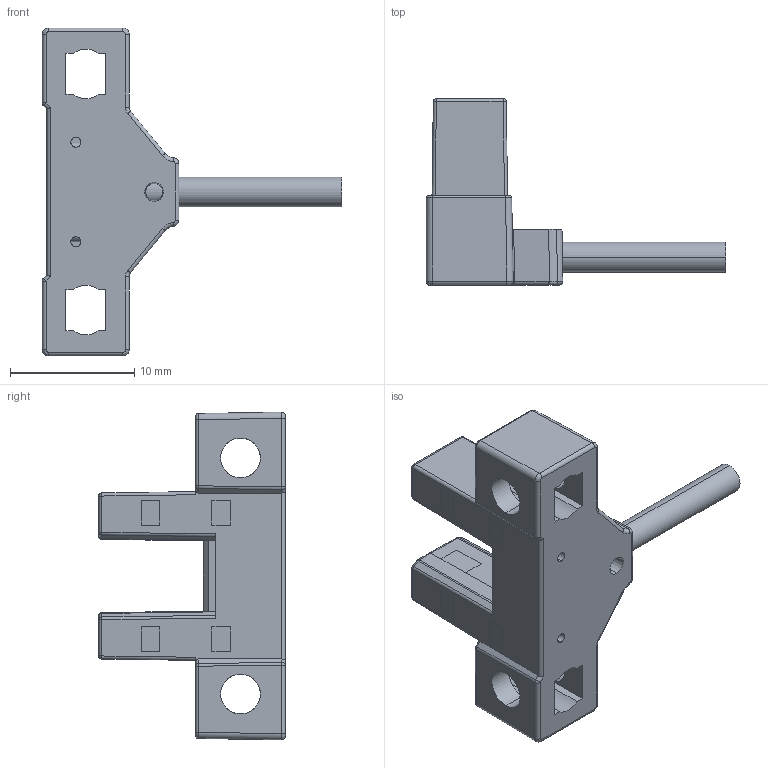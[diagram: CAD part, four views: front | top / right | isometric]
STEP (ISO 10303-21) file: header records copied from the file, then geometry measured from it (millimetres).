
FILE_DESCRIPTION((''),'2;1');
FILE_NAME('01_L45_ASM_HSG_ASM','2024-05-30T10:15:44',('PC'),(''),'CREO PARAMETRIC BY PTC INC, 2020033','CREO PARAMETRIC BY PTC INC, 2020033','');
FILE_SCHEMA(('CONFIG_CONTROL_DESIGN','SHAPE_APPEARANCE_LAYERS_GROUPS'));
Length unit declared in the file: millimetre
Products named in the file (4): 01101_L45_CASE; 012_Y45_INSIDE; 013_WIRE_Y45; 01_L45_ASM_HSG_ASM
Assembly tree (3 placements, depth 2):
  01_L45_ASM_HSG_ASM
    01101_L45_CASE
    012_Y45_INSIDE
    013_WIRE_Y45
Bounding box: 24.1 x 15 x 26.39 mm (x, y, z)
Volume: 1401.4 mm3; surface area: 2678 mm2
Topology: 8 solids, 8 shells, 552 faces, 1512 edges, 976 vertices
Faces by surface type: plane 381, cylinder 125, bspline 34, sphere 10, cone 2
Entity records: 28759 total; most frequent: CARTESIAN_POINT 6496, ORIENTED_EDGE 3024, DIRECTION 2654, PRESENTATION_STYLE_ASSIGNMENT 2032, STYLED_ITEM 2028, CURVE_STYLE 1512, EDGE_CURVE 1512, VECTOR 1166
